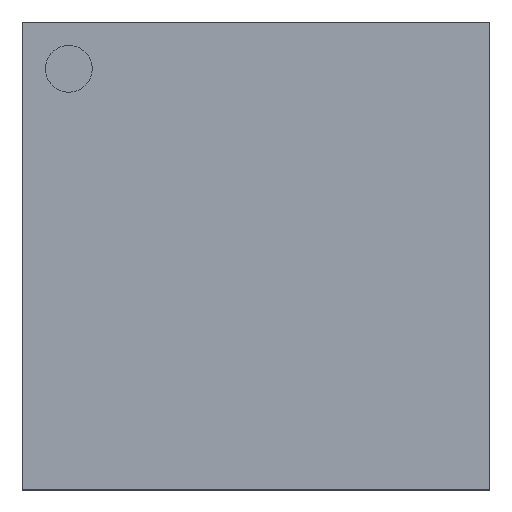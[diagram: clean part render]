
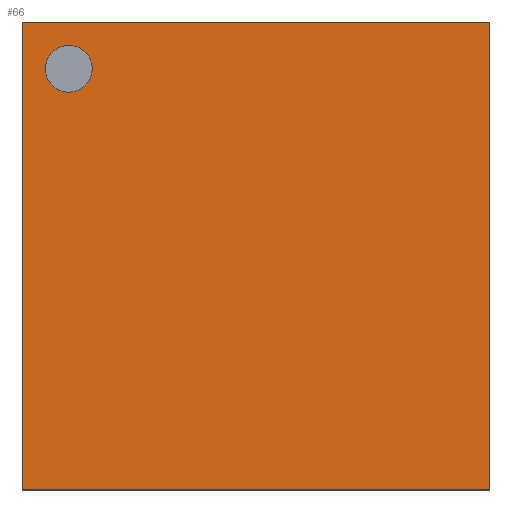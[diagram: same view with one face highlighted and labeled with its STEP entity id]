
A CAD part, top view. The second image highlights one B-rep face of the part: STEP entity #66.
In plain terms, the highlighted planar face has unit normal (0, 0, 1).
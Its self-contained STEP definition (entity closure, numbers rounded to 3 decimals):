
#13=DIRECTION('',(0.,0.,1.));
#24=VERTEX_POINT('',#25);
#25=CARTESIAN_POINT('',(-11.5,-11.5,1.5));
#33=VECTOR('',#34,1.);
#34=DIRECTION('',(0.,1.,0.));
#37=VERTEX_POINT('',#38);
#38=CARTESIAN_POINT('',(-11.5,11.5,1.5));
#40=ORIENTED_EDGE('',*,*,#41,.F.);
#41=EDGE_CURVE('',#24,#37,#42,.T.);
#42=LINE('',#25,#33);
#45=DIRECTION('',(1.,0.,0.));
#54=VECTOR('',#45,1.);
#56=ORIENTED_EDGE('',*,*,#57,.T.);
#57=EDGE_CURVE('',#24,#58,#60,.T.);
#58=VERTEX_POINT('',#59);
#59=CARTESIAN_POINT('',(11.5,-11.5,1.5));
#60=LINE('',#25,#54);
#66=ADVANCED_FACE('',(#67,#77),#87,.T.);
#67=FACE_BOUND('',#68,.T.);
#68=EDGE_LOOP('',(#40,#56,#69,#74));
#69=ORIENTED_EDGE('',*,*,#70,.T.);
#70=EDGE_CURVE('',#58,#71,#73,.T.);
#71=VERTEX_POINT('',#72);
#72=CARTESIAN_POINT('',(11.5,11.5,1.5));
#73=LINE('',#59,#33);
#74=ORIENTED_EDGE('',*,*,#75,.F.);
#75=EDGE_CURVE('',#37,#71,#76,.T.);
#76=LINE('',#38,#54);
#77=FACE_BOUND('',#78,.T.);
#78=EDGE_LOOP('',(#79));
#79=ORIENTED_EDGE('',*,*,#80,.T.);
#80=EDGE_CURVE('',#81,#81,#83,.T.);
#81=VERTEX_POINT('',#82);
#82=CARTESIAN_POINT('',(-8.05,9.2,1.5));
#83=CIRCLE('',#84,1.15);
#84=AXIS2_PLACEMENT_3D('',#85,#86,#45);
#85=CARTESIAN_POINT('',(-9.2,9.2,1.5));
#86=DIRECTION('',(0.,0.,-1.));
#87=PLANE('',#88);
#88=AXIS2_PLACEMENT_3D('',#25,#13,#45);
